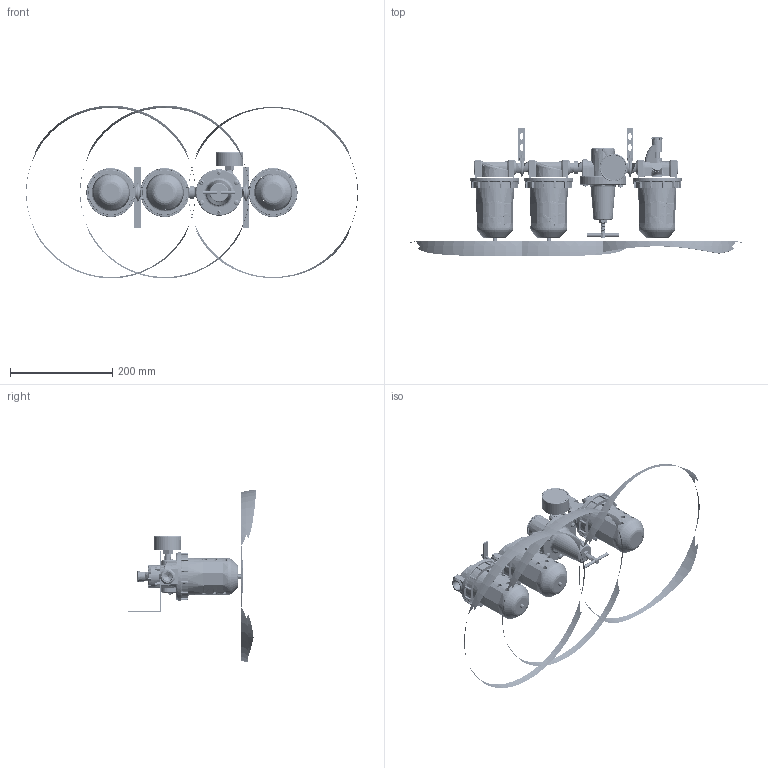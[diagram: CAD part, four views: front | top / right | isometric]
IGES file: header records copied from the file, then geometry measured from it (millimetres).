
Start section: SolidWorks IGES file using analytic representation for surfaces
Global section: file name: D:\Custom\3D繪製\FRL\FSRL系列\A728##-04YB#.IGS; native system: SolidWorks 2014; preprocessor: SolidWorks 2014; author: Chieh_Lu; date: 160115.014744; units: millimetre
Bounding box: 648.09 x 250.75 x 337.14 mm (x, y, z)
Surface area: 335588.9 mm2 (no closed solid volume)
Topology: 0 solids, 0 shells, 2204 faces, 32131 edges, 32096 vertices
Faces by surface type: bspline 1135, revolution 1069
